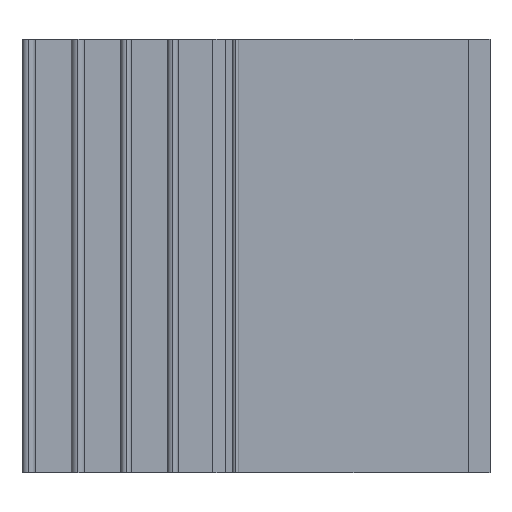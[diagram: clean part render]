
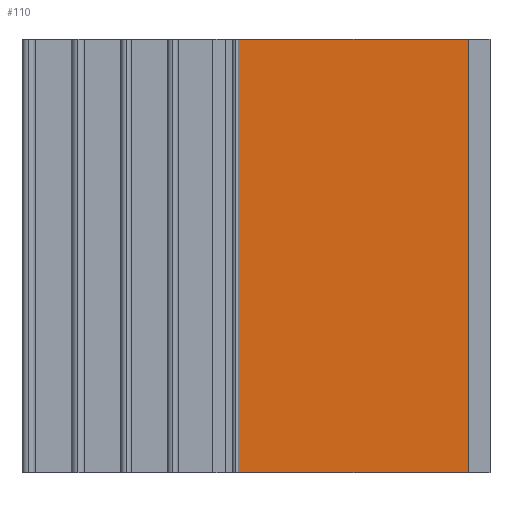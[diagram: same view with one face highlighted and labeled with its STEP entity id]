
A CAD part, left-side view. The second image highlights one B-rep face of the part: STEP entity #110.
In plain terms, the highlighted planar face has unit normal (-1, 0, 0).
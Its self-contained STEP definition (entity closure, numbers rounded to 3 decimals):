
#3 = ORIENTED_EDGE ( 'NONE', *, *, #7154, .T. ) ;
#81 = EDGE_LOOP ( 'NONE', ( #3, #7051, #6875, #131 ) ) ;
#110 = ADVANCED_FACE ( 'NONE', ( #1972 ), #1973, .F. ) ;
#131 = ORIENTED_EDGE ( 'NONE', *, *, #1258, .T. ) ;
#1160 = VERTEX_POINT ( 'NONE', #5664 ) ;
#1230 = VERTEX_POINT ( 'NONE', #5909 ) ;
#1258 = EDGE_CURVE ( 'NONE', #1230, #1160, #5987, .T. ) ;
#1972 = FACE_OUTER_BOUND ( 'NONE', #81, .T. ) ;
#1973 = PLANE ( 'NONE',  #1974 ) ;
#1974 = AXIS2_PLACEMENT_3D ( 'NONE', #1975, #1976, #1977 ) ;
#1975 = CARTESIAN_POINT ( 'NONE',  ( -3.75, 2.5, 50. ) ) ;
#1976 = DIRECTION ( 'NONE',  ( 1., 0., 0. ) ) ;
#1977 = DIRECTION ( 'NONE',  ( 0., 0., -1. ) ) ;
#5222 = LINE ( 'NONE', #5223, #5224 ) ;
#5223 = CARTESIAN_POINT ( 'NONE',  ( -3.75, 2.5, 50. ) ) ;
#5224 = VECTOR ( 'NONE', #5225, 1000. ) ;
#5225 = DIRECTION ( 'NONE',  ( 0., -1., 0. ) ) ;
#5664 = CARTESIAN_POINT ( 'NONE',  ( -3.75, 29., 0. ) ) ;
#5691 = CARTESIAN_POINT ( 'NONE',  ( -3.75, 2.5, 50. ) ) ;
#5801 = LINE ( 'NONE', #5802, #5803 ) ;
#5802 = CARTESIAN_POINT ( 'NONE',  ( -3.75, 2.5, 50. ) ) ;
#5803 = VECTOR ( 'NONE', #5804, 1000. ) ;
#5804 = DIRECTION ( 'NONE',  ( 0., 0., -1. ) ) ;
#5909 = CARTESIAN_POINT ( 'NONE',  ( -3.75, 29., 50. ) ) ;
#5987 = LINE ( 'NONE', #5988, #5989 ) ;
#5988 = CARTESIAN_POINT ( 'NONE',  ( -3.75, 29., 50. ) ) ;
#5989 = VECTOR ( 'NONE', #5990, 1000. ) ;
#5990 = DIRECTION ( 'NONE',  ( 0., 0., -1. ) ) ;
#6209 = CARTESIAN_POINT ( 'NONE',  ( -3.75, 2.5, 0. ) ) ;
#6370 = LINE ( 'NONE', #6371, #6372 ) ;
#6371 = CARTESIAN_POINT ( 'NONE',  ( -3.75, 2.5, 0. ) ) ;
#6372 = VECTOR ( 'NONE', #6373, 1000. ) ;
#6373 = DIRECTION ( 'NONE',  ( 0., -1., 0. ) ) ;
#6530 = EDGE_CURVE ( 'NONE', #1230, #6975, #5222, .T. ) ;
#6875 = ORIENTED_EDGE ( 'NONE', *, *, #6530, .F. ) ;
#6975 = VERTEX_POINT ( 'NONE', #5691 ) ;
#7008 = EDGE_CURVE ( 'NONE', #6975, #7123, #5801, .T. ) ;
#7051 = ORIENTED_EDGE ( 'NONE', *, *, #7008, .F. ) ;
#7123 = VERTEX_POINT ( 'NONE', #6209 ) ;
#7154 = EDGE_CURVE ( 'NONE', #1160, #7123, #6370, .T. ) ;
